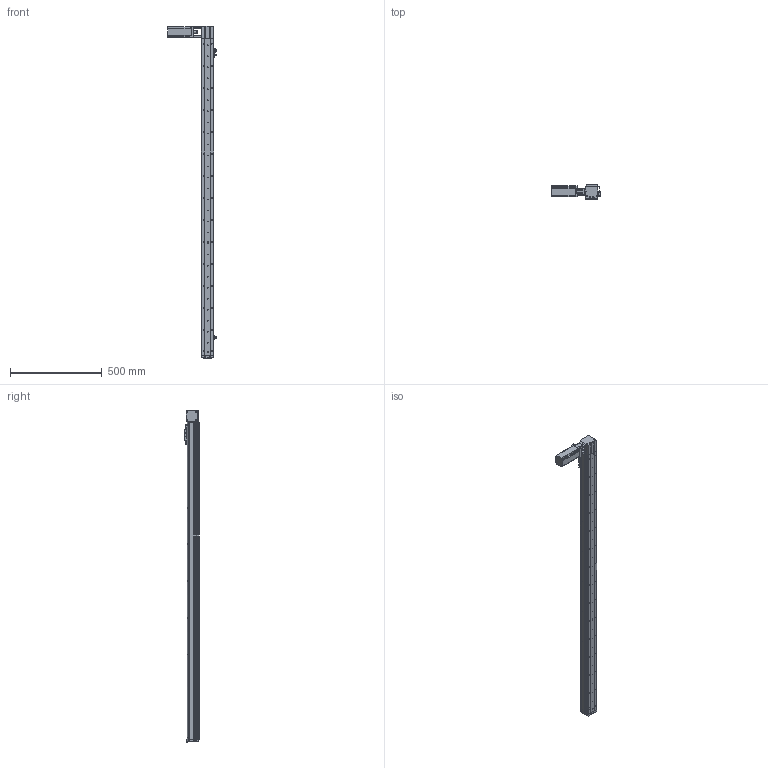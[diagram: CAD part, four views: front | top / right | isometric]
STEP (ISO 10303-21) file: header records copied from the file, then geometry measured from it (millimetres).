
FILE_DESCRIPTION (( 'STEP AP214' ), '1' );
FILE_NAME ('KSD68BS-S1550-MLT-CR.STEP', '2019-11-08T05:38:04', ( '微软用户' ), ( '微软中国' ), 'SwSTEP 2.0', 'SolidWorks 2014', '' );
FILE_SCHEMA (( 'AUTOMOTIVE_DESIGN' ));
Length unit declared in the file: millimetre
Products named in the file (13): 100遵鎮湛假蚾啣1; 68遵裔啣揤啣1; KSD68BS 1550行程盖板全封闭; 68宽单导轨全封闭丝杆传动安装板1防护罩; KSD68BS 1550行程侧板全封闭; 68宽单导轨全封闭同步带端板; 68单导轨全封闭同步带电机座右; 68单导轨全封闭同步带安装板; 感应片68宽全封闭; U倰嫖萇EEㄜSX672; 台达ECMA－C20604AS伺服电机（400W); KSD68BS 1550行程底板全封闭; KSD68BS-S1550-MLT-CR
Assembly tree (15 placements, depth 2):
  KSD68BS-S1550-MLT-CR
    KSD68BS 1550行程底板全封闭
    台达ECMA－C20604AS伺服电机（400W)
    U倰嫖萇EEㄜSX672  x3
    感应片68宽全封闭
    68单导轨全封闭同步带安装板
    68单导轨全封闭同步带电机座右
    68宽单导轨全封闭同步带端板
    KSD68BS 1550行程侧板全封闭  x2
    68宽单导轨全封闭丝杆传动安装板1防护罩
    KSD68BS 1550行程盖板全封闭
    68遵裔啣揤啣1
    100遵鎮湛假蚾啣1
Bounding box: 266.4 x 77 x 1808.1 mm (x, y, z)
Volume: 3224891.9 mm3; surface area: 1281703.7 mm2
Topology: 16 solids, 16 shells, 1529 faces, 4419 edges, 2811 vertices
Faces by surface type: cylinder 748, plane 597, cone 184
Entity records: 50389 total; most frequent: CARTESIAN_POINT 8718, DIRECTION 7440, ORIENTED_EDGE 7120, EDGE_CURVE 3560, AXIS2_PLACEMENT_3D 2715, VERTEX_POINT 2333, VECTOR 2010, LINE 2010
